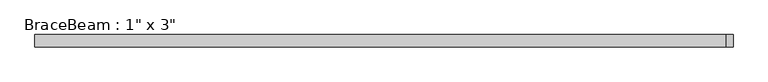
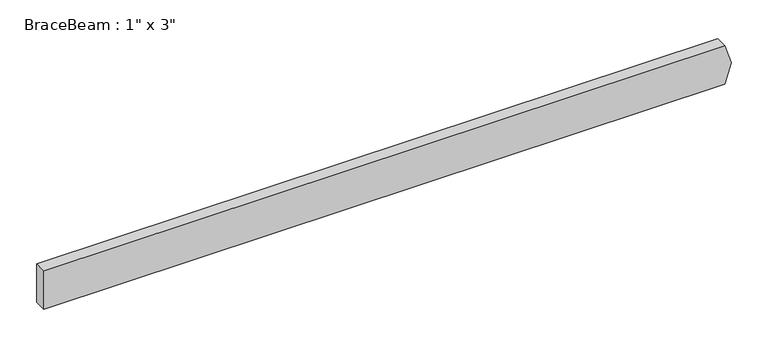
"""IFC4 building model written with IfcOpenShell, lengths in millimetres: beam geometry."""

import ifcopenshell
import ifcopenshell.guid

model = None  # the IFC model being written
_history = None  # IfcOwnerHistory: only IFC2X3 demands one
_inside = {}  # id of a spatial element -> (the spatial element, [elements in it])
_under = {}  # id of a project, library or spatial element -> (it, [spatial elements below it])
_declared = {}  # id of a project -> (the project, [libraries it declares])
_typed = {}  # id of a type object -> (the type object, [elements of that type])
_made_of = {}  # id of a material, layer set ... -> (it, [elements and type objects made of it])


def new_model(schema):
    """Start an empty IFC model of exactly this schema.

    Asked for "IFC4X3", IfcOpenShell would pick the latest addendum, in which some entities
    have other attributes; the version numbers below select the first issue.
    IFC2X3 requires an IfcOwnerHistory on every rooted entity: one is made here for all.
    """
    global model, _history
    if schema == "IFC4X3":
        model = ifcopenshell.file(schema_version=(4, 3, 0, 0))
    else:
        model = ifcopenshell.file(schema=schema)
    _inside.clear()
    _under.clear()
    _declared.clear()
    _typed.clear()
    _made_of.clear()
    _history = None
    if model.schema == "IFC2X3":
        org = make("IfcOrganization", Name="unknown")
        user = make(
            "IfcPersonAndOrganization",
            ThePerson=make("IfcPerson", FamilyName="unknown"),
            TheOrganization=org,
        )
        app = make(
            "IfcApplication",
            ApplicationDeveloper=org,
            Version="unknown",
            ApplicationFullName="unknown",
            ApplicationIdentifier="unknown",
        )
        _history = make(
            "IfcOwnerHistory",
            OwningUser=user,
            OwningApplication=app,
            ChangeAction="ADDED",
            CreationDate=0,
        )
    return model


def make(cls, **values):
    """One entity of the class cls with the attributes given. An attribute that is None is left unset."""
    return model.create_entity(
        cls, **{name: value for name, value in values.items() if value is not None}
    )


def rooted(cls, **values):
    """An entity with a GlobalId (a new one), such as an element, a storey or a relation."""
    return make(cls, GlobalId=ifcopenshell.guid.new(), OwnerHistory=_history, **values)


def si_unit(unit_type, name, prefix=None):
    """IfcSIUnit, for example si_unit("LENGTHUNIT", "METRE", prefix="MILLI")."""
    return make("IfcSIUnit", UnitType=unit_type, Prefix=prefix, Name=name)


def assignment(units):
    """IfcUnitAssignment: the units of a project."""
    return None if units is None else make("IfcUnitAssignment", Units=units)


def point(xyz):
    """IfcCartesianPoint."""
    return None if xyz is None else make("IfcCartesianPoint", Coordinates=xyz)


def direction(xyz):
    """IfcDirection."""
    return None if xyz is None else make("IfcDirection", DirectionRatios=xyz)


def frame(location, z_axis=None, x_axis=None):
    """IfcAxis2Placement3D, a coordinate frame: its origin and axes. An axis left out is left unset."""
    return make(
        "IfcAxis2Placement3D",
        Location=point(location),
        Axis=direction(z_axis),
        RefDirection=direction(x_axis),
    )


def origin():
    """The frame at (0, 0, 0) with its axes left unset."""
    return frame((0.0, 0.0, 0.0))


def place(relative_to, where):
    """IfcLocalPlacement: puts the frame where relative to a parent placement (None: the world)."""
    return make(
        "IfcLocalPlacement", PlacementRelTo=relative_to, RelativePlacement=where
    )


def context(
    kind, dimensions, precision=None, world=None, true_north=None, identifier=None
):
    """IfcGeometricRepresentationContext, for example the 3D "Model" context."""
    return make(
        "IfcGeometricRepresentationContext",
        ContextIdentifier=identifier,
        ContextType=kind,
        CoordinateSpaceDimension=dimensions,
        Precision=precision,
        WorldCoordinateSystem=world,
        TrueNorth=true_north,
    )


def project(units=None, contexts=None):
    """IfcProject with its units and contexts."""
    return rooted(
        "IfcProject",
        Name="project",
        RepresentationContexts=contexts,
        UnitsInContext=assignment(units),
    )


def spatial(cls, under=None, at=None, **own):
    """A site, building, storey or space (cls), placed at a placement, below another one or the project."""
    s = rooted(cls, ObjectPlacement=at, **own)
    if under is not None:
        _under.setdefault(under.id(), (under, []))[1].append(s)
    return s


def polyline(points):
    """IfcPolyline through the points."""
    return make("IfcPolyline", Points=[point(p) for p in points])


def outline(outer, holes=None, kind="AREA"):
    """IfcArbitraryClosedProfileDef: a profile drawn as a closed curve; with holes, ...WithVoids."""
    if holes is None:
        return make("IfcArbitraryClosedProfileDef", ProfileType=kind, OuterCurve=outer)
    return make(
        "IfcArbitraryProfileDefWithVoids",
        ProfileType=kind,
        OuterCurve=outer,
        InnerCurves=holes,
    )


def extrude(swept, where, along, depth):
    """IfcExtrudedAreaSolid: the profile swept, set in the frame where, extruded along a direction by depth."""
    return make(
        "IfcExtrudedAreaSolid",
        SweptArea=swept,
        Position=where,
        ExtrudedDirection=direction(along),
        Depth=depth,
    )


def shape(context_of_items, identifier, shape_type, items):
    """IfcShapeRepresentation: the items that make up one representation, for example the "Body"."""
    return make(
        "IfcShapeRepresentation",
        ContextOfItems=context_of_items,
        RepresentationIdentifier=identifier,
        RepresentationType=shape_type,
        Items=items,
    )


def source(mapping_origin, context_of_items, identifier, shape_type, items):
    """IfcRepresentationMap: a shape defined once, which mapped items show again and again."""
    return make(
        "IfcRepresentationMap",
        MappingOrigin=mapping_origin,
        MappedRepresentation=shape(context_of_items, identifier, shape_type, items),
    )


def transform(
    local_origin,
    x_axis=None,
    y_axis=None,
    z_axis=None,
    scale=None,
    scale2=None,
    scale3=None,
    uniform=True,
):
    """IfcCartesianTransformationOperator3D, or its non-uniform kind. x_axis, y_axis, z_axis: its Axis1, 2, 3."""
    if uniform:
        return make(
            "IfcCartesianTransformationOperator3D",
            Axis1=direction(x_axis),
            Axis2=direction(y_axis),
            LocalOrigin=point(local_origin),
            Scale=scale,
            Axis3=direction(z_axis),
        )
    return make(
        "IfcCartesianTransformationOperator3DnonUniform",
        Axis1=direction(x_axis),
        Axis2=direction(y_axis),
        LocalOrigin=point(local_origin),
        Scale=scale,
        Axis3=direction(z_axis),
        Scale2=scale2,
        Scale3=scale3,
    )


def mapped(mapping_source, mapping_target):
    """IfcMappedItem: shows the shape of a source again, moved by a transform."""
    return make(
        "IfcMappedItem", MappingSource=mapping_source, MappingTarget=mapping_target
    )


def made_of(thing, what):
    """Note that an element or type object is made of a material, layer set ...; save() writes the relation."""
    if what is not None:
        _made_of.setdefault(what.id(), (what, []))[1].append(thing)
    return thing


def element(
    cls,
    number,
    at=None,
    inside=None,
    cuts=None,
    type_object=None,
    material=None,
    context=None,
    identifier="Body",
    shape_type=None,
    held_by="IfcProductDefinitionShape",
    body=None,
    shapes=None,
    **own,
):
    """One element of the class cls, such as IfcWall. Its Tag is "e" and its number.

    at: its placement. inside: the storey or other place that contains it. cuts: it is an
    opening in that element (IfcRelVoidsElement). A single representation is given by context,
    identifier, shape_type and body (its items); several are given by shapes. held_by: the class
    of the entity that holds the representations. save() writes the other relations.
    """
    e = rooted(cls, Tag="e%d" % number, ObjectPlacement=at, **own)
    if body is not None:
        shapes = [shape(context, identifier, shape_type, body)]
    if shapes is not None:
        e.Representation = make(held_by, Representations=shapes)
    if inside is not None:
        _inside.setdefault(inside.id(), (inside, []))[1].append(e)
    if cuts is not None:
        rooted(
            "IfcRelVoidsElement", RelatingBuildingElement=cuts, RelatedOpeningElement=e
        )
    if type_object is not None:
        _typed.setdefault(type_object.id(), (type_object, []))[1].append(e)
    return made_of(e, material)


def aggregate(whole, parts):
    """IfcRelAggregates: a whole, such as a stair, and the parts it consists of."""
    return rooted("IfcRelAggregates", RelatingObject=whole, RelatedObjects=parts)


def save(model, path):
    """Write the relations noted so far, then the file.

    IfcRelAggregates (storeys below a building ...), IfcRelContainedInSpatialStructure (elements
    in a storey), IfcRelDefinesByType, IfcRelAssociatesMaterial and IfcRelDeclares: one each for
    every whole, place, type object, material and project.
    """
    for whole, parts in _under.values():
        aggregate(whole, parts)
    for where, things in _inside.values():
        rooted(
            "IfcRelContainedInSpatialStructure",
            RelatedElements=things,
            RelatingStructure=where,
        )
    for kind, things in _typed.values():
        rooted("IfcRelDefinesByType", RelatedObjects=things, RelatingType=kind)
    for what, things in _made_of.values():
        rooted("IfcRelAssociatesMaterial", RelatedObjects=things, RelatingMaterial=what)
    for by, libraries in _declared.values():
        rooted("IfcRelDeclares", RelatingContext=by, RelatedDefinitions=libraries)
    model.write(path)


def beam_fda0a2b8(model_context):
    return source(origin(), model_context, "Body", "SweptSolid", [
        extrude(outline(polyline([(31.75, -557.2125), (-31.75, -557.2125), (-31.75, 513.451283), (0.0, 523.8141302), (31.75, 513.451283), (31.75, -557.2125)])), frame((0.0, -9.525, 0.0), z_axis=(0.0, 1.0, 0.0), x_axis=(0.0, 0.0, 1.0)), (0.0, 0.0, 1.0), 19.05),
    ])


if __name__ == "__main__":
    model = new_model("IFC4")
    model_context = context("Model", 3, world=origin())
    ifc_project = project(units=[si_unit("LENGTHUNIT", "METRE", prefix="MILLI")], contexts=[model_context])
    site = spatial("IfcSite", under=ifc_project)
    building = spatial("IfcBuilding", under=site)
    placement = place(None, origin())
    beam_shape = beam_fda0a2b8(model_context)
    element("IfcBeam", 1, ObjectType="BraceBeam : 1\" x 3\"", at=placement, inside=building, context=model_context, shape_type="MappedRepresentation", body=[
        mapped(beam_shape, transform((0.0, 0.0, 0.0), x_axis=(1.0, 0.0, 0.0), y_axis=(0.0, 1.0, 0.0), z_axis=(0.0, 0.0, 1.0))),
    ])
    save(model, "model.ifc")
